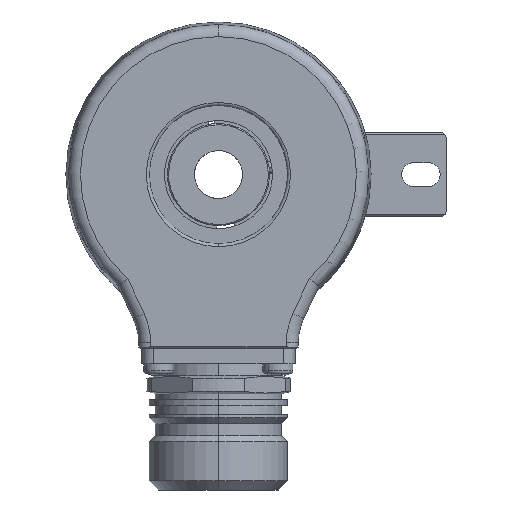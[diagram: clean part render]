
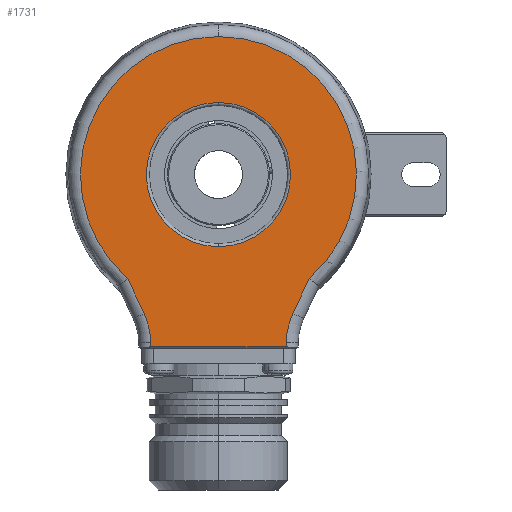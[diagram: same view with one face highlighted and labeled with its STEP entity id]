
A CAD part, left-side view. The second image highlights one B-rep face of the part: STEP entity #1731.
In plain terms, the highlighted planar face has unit normal (-1, 0, 0).
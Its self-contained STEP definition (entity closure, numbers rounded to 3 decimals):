
#872 = VERTEX_POINT ( 'NONE', #7388 ) ;
#1220 = VERTEX_POINT ( 'NONE', #8249 ) ;
#1222 = EDGE_CURVE ( 'NONE', #872, #1220, #8248, .T. ) ;
#1232 = EDGE_CURVE ( 'NONE', #1234, #872, #8285, .T. ) ;
#1234 = VERTEX_POINT ( 'NONE', #8420 ) ;
#1237 = EDGE_CURVE ( 'NONE', #1220, #1284, #8419, .T. ) ;
#1253 = VERTEX_POINT ( 'NONE', #8405 ) ;
#1266 = EDGE_CURVE ( 'NONE', #1285, #1360, #8485, .T. ) ;
#1269 = EDGE_CURVE ( 'NONE', #1360, #1253, #8504, .T. ) ;
#1283 = EDGE_CURVE ( 'NONE', #1284, #1285, #8518, .T. ) ;
#1284 = VERTEX_POINT ( 'NONE', #8539 ) ;
#1285 = VERTEX_POINT ( 'NONE', #8543 ) ;
#1360 = VERTEX_POINT ( 'NONE', #8814 ) ;
#1481 = VERTEX_POINT ( 'NONE', #9117 ) ;
#1483 = EDGE_CURVE ( 'NONE', #1484, #1481, #9116, .T. ) ;
#1484 = VERTEX_POINT ( 'NONE', #9111 ) ;
#1489 = VERTEX_POINT ( 'NONE', #9109 ) ;
#1491 = EDGE_CURVE ( 'NONE', #1525, #1489, #9233, .T. ) ;
#1525 = VERTEX_POINT ( 'NONE', #9441 ) ;
#1528 = EDGE_CURVE ( 'NONE', #1253, #1525, #9440, .T. ) ;
#1611 = ORIENTED_EDGE ( 'NONE', *, *, #1483, .T. ) ;
#1612 = ORIENTED_EDGE ( 'NONE', *, *, #1730, .T. ) ;
#1613 = EDGE_LOOP ( 'NONE', ( #1614, #1615, #1616, #1618, #1619, #1620, #1621, #1622, #1734 ) ) ;
#1614 = ORIENTED_EDGE ( 'NONE', *, *, #1528, .T. ) ;
#1615 = ORIENTED_EDGE ( 'NONE', *, *, #1491, .T. ) ;
#1616 = ORIENTED_EDGE ( 'NONE', *, *, #1617, .T. ) ;
#1617 = EDGE_CURVE ( 'NONE', #1489, #1234, #9709, .T. ) ;
#1618 = ORIENTED_EDGE ( 'NONE', *, *, #1232, .T. ) ;
#1619 = ORIENTED_EDGE ( 'NONE', *, *, #1222, .T. ) ;
#1620 = ORIENTED_EDGE ( 'NONE', *, *, #1237, .T. ) ;
#1621 = ORIENTED_EDGE ( 'NONE', *, *, #1283, .T. ) ;
#1622 = ORIENTED_EDGE ( 'NONE', *, *, #1266, .T. ) ;
#1730 = EDGE_CURVE ( 'NONE', #1481, #1484, #10054, .T. ) ;
#1731 = ADVANCED_FACE ( 'NONE', ( #10049, #10048 ), #10033, .F. ) ;
#1732 = EDGE_LOOP ( 'NONE', ( #1611, #1612 ) ) ;
#1734 = ORIENTED_EDGE ( 'NONE', *, *, #1269, .T. ) ;
#7388 = CARTESIAN_POINT ( 'NONE',  ( -21., -12.39, -23.112 ) ) ;
#8244 = DIRECTION ( 'NONE',  ( 0., -0.423, 0.906 ) ) ;
#8245 = VECTOR ( 'NONE', #8244, 1000. ) ;
#8246 = CARTESIAN_POINT ( 'NONE',  ( -21., -14.953, -17.615 ) ) ;
#8248 = LINE ( 'NONE', #8246, #8245 ) ;
#8249 = CARTESIAN_POINT ( 'NONE',  ( -21., -15.091, -17.32 ) ) ;
#8281 = DIRECTION ( 'NONE',  ( 0., 0., 1. ) ) ;
#8282 = DIRECTION ( 'NONE',  ( 1., 0., 0. ) ) ;
#8283 = CARTESIAN_POINT ( 'NONE',  ( -21., -23.266, -28.183 ) ) ;
#8284 = AXIS2_PLACEMENT_3D ( 'NONE', #8283, #8282, #8281 ) ;
#8285 = CIRCLE ( 'NONE', #8284, 12. ) ;
#8372 = DIRECTION ( 'NONE',  ( 0., 0., 1. ) ) ;
#8373 = DIRECTION ( 'NONE',  ( -1., 0., 0. ) ) ;
#8374 = CARTESIAN_POINT ( 'NONE',  ( -21., 0., 0. ) ) ;
#8375 = AXIS2_PLACEMENT_3D ( 'NONE', #8374, #8373, #8372 ) ;
#8405 = CARTESIAN_POINT ( 'NONE',  ( -21., 11.268, -27.974 ) ) ;
#8419 = CIRCLE ( 'NONE', #8375, 22.972 ) ;
#8420 = CARTESIAN_POINT ( 'NONE',  ( -21., -11.268, -27.974 ) ) ;
#8462 = CARTESIAN_POINT ( 'NONE',  ( -21., 23.266, -28.183 ) ) ;
#8465 = DIRECTION ( 'NONE',  ( 0., -0.423, -0.906 ) ) ;
#8485 = LINE ( 'NONE', #8500, #8505 ) ;
#8490 = DIRECTION ( 'NONE',  ( 0., 0., 1. ) ) ;
#8491 = DIRECTION ( 'NONE',  ( 1., 0., 0. ) ) ;
#8492 = AXIS2_PLACEMENT_3D ( 'NONE', #8462, #8491, #8490 ) ;
#8500 = CARTESIAN_POINT ( 'NONE',  ( -21., 12.39, -23.112 ) ) ;
#8504 = CIRCLE ( 'NONE', #8492, 12. ) ;
#8505 = VECTOR ( 'NONE', #8465, 1000. ) ;
#8517 = AXIS2_PLACEMENT_3D ( 'NONE', #8537, #8528, #8527 ) ;
#8518 = CIRCLE ( 'NONE', #8517, 22.972 ) ;
#8527 = DIRECTION ( 'NONE',  ( 0., 0., 1. ) ) ;
#8528 = DIRECTION ( 'NONE',  ( -1., 0., 0. ) ) ;
#8537 = CARTESIAN_POINT ( 'NONE',  ( -21., 0., 0. ) ) ;
#8539 = CARTESIAN_POINT ( 'NONE',  ( -21., 0., 22.972 ) ) ;
#8543 = CARTESIAN_POINT ( 'NONE',  ( -21., 15.091, -17.32 ) ) ;
#8814 = CARTESIAN_POINT ( 'NONE',  ( -21., 12.39, -23.112 ) ) ;
#9109 = CARTESIAN_POINT ( 'NONE',  ( -21., -11.255, -28.695 ) ) ;
#9111 = CARTESIAN_POINT ( 'NONE',  ( -21., 0., 12. ) ) ;
#9112 = DIRECTION ( 'NONE',  ( 0., 0., 1. ) ) ;
#9113 = DIRECTION ( 'NONE',  ( 1., 0., 0. ) ) ;
#9114 = CARTESIAN_POINT ( 'NONE',  ( -21., 0., 0. ) ) ;
#9115 = AXIS2_PLACEMENT_3D ( 'NONE', #9114, #9113, #9112 ) ;
#9116 = CIRCLE ( 'NONE', #9115, 12. ) ;
#9117 = CARTESIAN_POINT ( 'NONE',  ( -21., 0., -12. ) ) ;
#9230 = DIRECTION ( 'NONE',  ( 0., -1., 0. ) ) ;
#9231 = VECTOR ( 'NONE', #9230, 1000. ) ;
#9232 = CARTESIAN_POINT ( 'NONE',  ( -21., -11.25, -28.695 ) ) ;
#9233 = LINE ( 'NONE', #9232, #9231 ) ;
#9437 = DIRECTION ( 'NONE',  ( 0., -0.017, -1. ) ) ;
#9438 = VECTOR ( 'NONE', #9437, 1000. ) ;
#9439 = CARTESIAN_POINT ( 'NONE',  ( -21., 11.752, -0.205 ) ) ;
#9440 = LINE ( 'NONE', #9439, #9438 ) ;
#9441 = CARTESIAN_POINT ( 'NONE',  ( -21., 11.255, -28.695 ) ) ;
#9706 = DIRECTION ( 'NONE',  ( 0., -0.017, 1. ) ) ;
#9707 = VECTOR ( 'NONE', #9706, 1000. ) ;
#9708 = CARTESIAN_POINT ( 'NONE',  ( -21., -11.752, -0.205 ) ) ;
#9709 = LINE ( 'NONE', #9708, #9707 ) ;
#9958 = DIRECTION ( 'NONE',  ( 0., 0., 1. ) ) ;
#10030 = DIRECTION ( 'NONE',  ( 1., 0., 0. ) ) ;
#10031 = CARTESIAN_POINT ( 'NONE',  ( -21., 0., 0. ) ) ;
#10032 = AXIS2_PLACEMENT_3D ( 'NONE', #10031, #10030, #9958 ) ;
#10033 = PLANE ( 'NONE',  #10032 ) ;
#10048 = FACE_OUTER_BOUND ( 'NONE', #1613, .T. ) ;
#10049 = FACE_BOUND ( 'NONE', #1732, .T. ) ;
#10050 = DIRECTION ( 'NONE',  ( 0., 0., 1. ) ) ;
#10051 = DIRECTION ( 'NONE',  ( 1., 0., 0. ) ) ;
#10052 = CARTESIAN_POINT ( 'NONE',  ( -21., 0., 0. ) ) ;
#10053 = AXIS2_PLACEMENT_3D ( 'NONE', #10052, #10051, #10050 ) ;
#10054 = CIRCLE ( 'NONE', #10053, 12. ) ;
